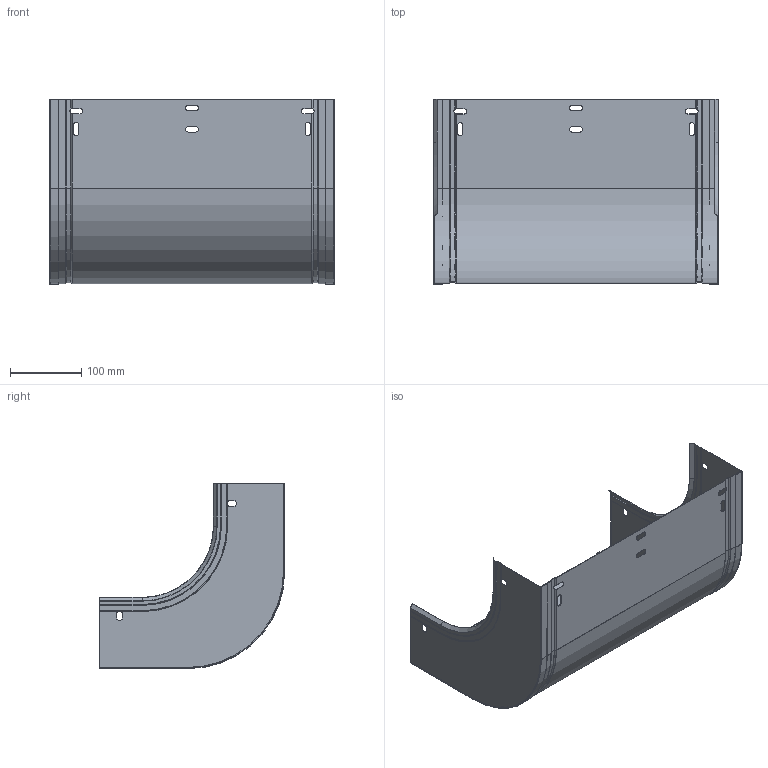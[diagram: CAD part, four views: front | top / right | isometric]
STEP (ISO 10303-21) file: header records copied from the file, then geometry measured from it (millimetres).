
FILE_DESCRIPTION (( 'STEP AP203' ), '1' );
FILE_NAME ('ERE_CONCAVA 400x100.step', '2023-07-27T18:54:29', ( '' ), ( '' ), 'SwSTEP 2.0', 'SolidWorks 2022', '' );
FILE_SCHEMA (( 'CONFIG_CONTROL_DESIGN' ));
Length unit declared in the file: millimetre
Products named in the file (3): ERE_CONCAVA 400x100; ERE_BASE CC_400x100; ERE_LATERAL CC_100
Assembly tree (3 placements, depth 2):
  ERE_CONCAVA 400x100
    ERE_BASE CC_400x100
    ERE_LATERAL CC_100  x2
Bounding box: 400 x 260 x 260 mm (x, y, z)
Volume: 220357.1 mm3; surface area: 554366.1 mm2
Topology: 3 solids, 3 shells, 234 faces, 642 edges, 402 vertices
Faces by surface type: plane 146, cylinder 62, cone 22, torus 4
Entity records: 6006 total; most frequent: CARTESIAN_POINT 1036, ORIENTED_EDGE 988, DIRECTION 969, EDGE_CURVE 494, VECTOR 353, LINE 353, VERTEX_POINT 311, AXIS2_PLACEMENT_3D 308
